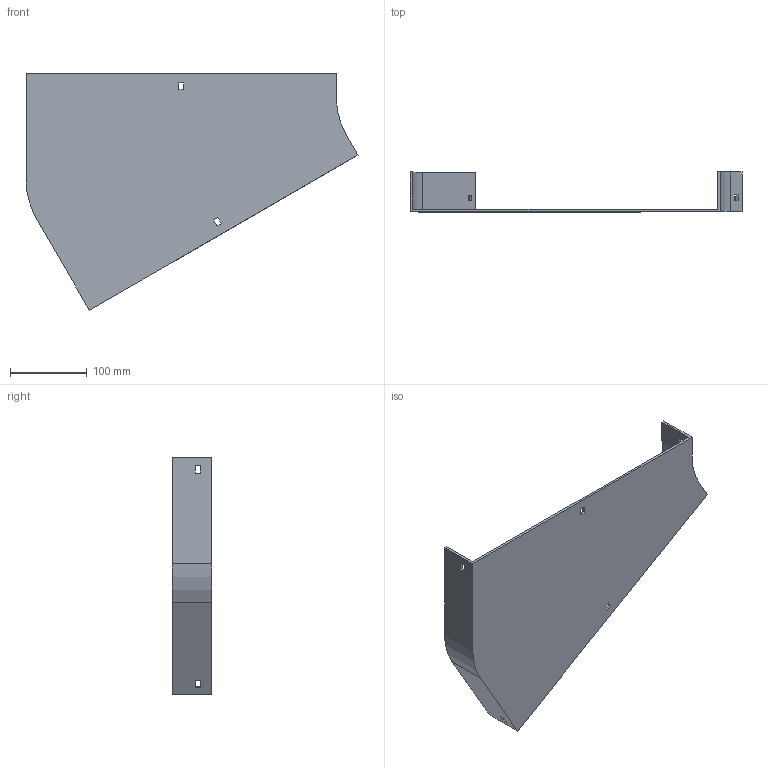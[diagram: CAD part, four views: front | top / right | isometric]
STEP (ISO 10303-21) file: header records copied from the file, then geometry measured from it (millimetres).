
FILE_DESCRIPTION (( 'STEP AP214' ), '1' );
FILE_NAME ('12F1B400.step', '2025-02-21T12:54:14', ( '' ), ( '' ), 'SwSTEP 2.0', 'SolidWorks 2023', '' );
FILE_SCHEMA (( 'AUTOMOTIVE_DESIGN' ));
Length unit declared in the file: millimetre
Products named in the file (1): 12F1B400
Bounding box: 432.4 x 52 x 307.98 mm (x, y, z)
Volume: 387191.7 mm3; surface area: 226996.7 mm2
Topology: 1 solids, 1 shells, 42 faces, 120 edges, 80 vertices
Faces by surface type: plane 38, cylinder 4
Entity records: 1399 total; most frequent: CARTESIAN_POINT 243, ORIENTED_EDGE 240, DIRECTION 214, EDGE_CURVE 120, LINE 112, VECTOR 112, VERTEX_POINT 80, EDGE_LOOP 54
